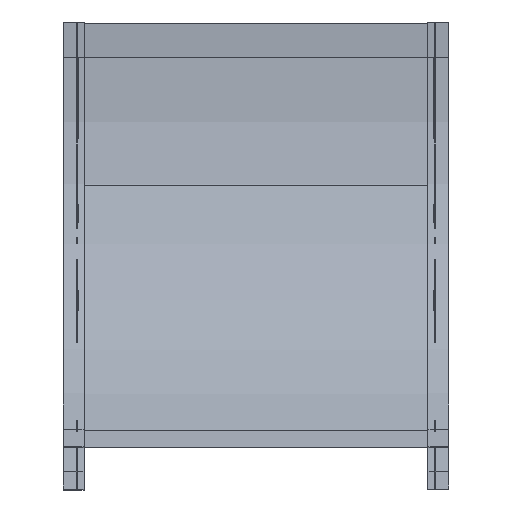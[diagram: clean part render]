
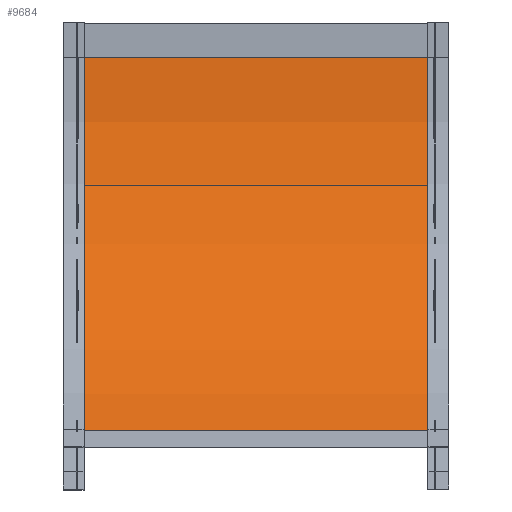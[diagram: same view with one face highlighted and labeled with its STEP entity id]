
A CAD part, front view. The second image highlights one B-rep face of the part: STEP entity #9684.
In plain terms, the highlighted cylindrical face has radius 916.94 mm (diameter 1833.88 mm), a partial arc.
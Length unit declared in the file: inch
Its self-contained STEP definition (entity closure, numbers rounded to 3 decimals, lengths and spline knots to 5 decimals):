
#9518=DIRECTION('',(-1.,0.,0.));
#9519=VECTOR('',#9518,29.875);
#9520=CARTESIAN_POINT('',(14.9375,0.,0.));
#9521=LINE('',#9520,#9519);
#9522=CARTESIAN_POINT('',(14.9375,36.1,0.));
#9523=DIRECTION('',(-1.,0.,0.));
#9524=DIRECTION('',(0.,-1.,0.));
#9525=AXIS2_PLACEMENT_3D('',#9522,#9523,#9524);
#9548=CARTESIAN_POINT('',(-14.9375,36.1,0.));
#9549=DIRECTION('',(-1.,0.,0.));
#9550=DIRECTION('',(0.,-1.,0.));
#9551=AXIS2_PLACEMENT_3D('',#9548,#9549,#9550);
#9574=DIRECTION('',(-1.,0.,0.));
#9575=VECTOR('',#9574,29.875);
#9576=CARTESIAN_POINT('',(14.9375,18.05,31.26352));
#9577=LINE('',#9576,#9575);
#9622=CARTESIAN_POINT('',(14.9375,0.,0.));
#9624=VERTEX_POINT('',#9622);
#9628=CARTESIAN_POINT('',(-14.9375,0.,0.));
#9629=VERTEX_POINT('',#9628);
#9638=CARTESIAN_POINT('',(14.9375,18.05,31.26352));
#9639=VERTEX_POINT('',#9638);
#9642=CARTESIAN_POINT('',(-14.9375,18.05,31.26352));
#9643=VERTEX_POINT('',#9642);
#9670=CARTESIAN_POINT('',(14.9375,36.1,0.));
#9671=DIRECTION('',(-1.,0.,0.));
#9672=DIRECTION('',(0.,0.,1.));
#9673=AXIS2_PLACEMENT_3D('',#9670,#9671,#9672);
#9674=CYLINDRICAL_SURFACE('',#9673,36.1);
#9676=ORIENTED_EDGE('',*,*,#9675,.T.);
#9678=ORIENTED_EDGE('',*,*,#9677,.T.);
#9680=ORIENTED_EDGE('',*,*,#9679,.F.);
#9681=ORIENTED_EDGE('',*,*,#9659,.F.);
#9682=EDGE_LOOP('',(#9676,#9678,#9680,#9681));
#9683=FACE_OUTER_BOUND('',#9682,.F.);
#9684=ADVANCED_FACE('',(#9683),#9674,.F.);
#9526=CIRCLE('',#9525,36.1);
#9552=CIRCLE('',#9551,36.1);
#9659=EDGE_CURVE('',#9624,#9629,#9521,.T.);
#9675=EDGE_CURVE('',#9624,#9639,#9526,.T.);
#9677=EDGE_CURVE('',#9639,#9643,#9577,.T.);
#9679=EDGE_CURVE('',#9629,#9643,#9552,.T.);
